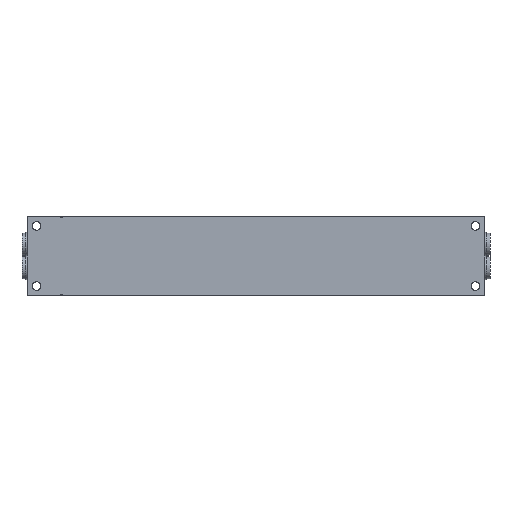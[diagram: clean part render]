
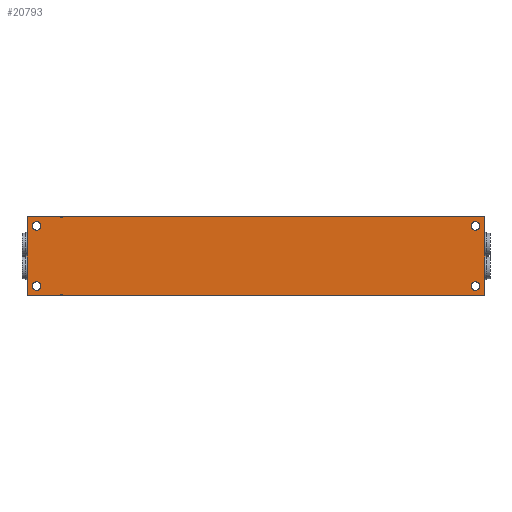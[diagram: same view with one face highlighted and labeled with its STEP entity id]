
A CAD part, front view. The second image highlights one B-rep face of the part: STEP entity #20793.
In plain terms, the highlighted planar face has unit normal (0, -1, 0).
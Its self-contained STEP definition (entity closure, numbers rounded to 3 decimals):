
#262 = DIRECTION ( 'NONE',  ( 0., 1., 0. ) ) ;
#442 = ORIENTED_EDGE ( 'NONE', *, *, #17556, .F. ) ;
#573 = AXIS2_PLACEMENT_3D ( 'NONE', #16283, #2697, #18690 ) ;
#609 = AXIS2_PLACEMENT_3D ( 'NONE', #25789, #11646, #28173 ) ;
#652 = AXIS2_PLACEMENT_3D ( 'NONE', #4871, #20978, #7110 ) ;
#739 = AXIS2_PLACEMENT_3D ( 'NONE', #13728, #262, #16086 ) ;
#1040 = CARTESIAN_POINT ( 'NONE',  ( 168., -19., -23. ) ) ;
#1466 = CARTESIAN_POINT ( 'NONE',  ( 168., -19., -26.25 ) ) ;
#1555 = DIRECTION ( 'NONE',  ( 1., 0., 0. ) ) ;
#1736 = CARTESIAN_POINT ( 'NONE',  ( -175., -19., -30. ) ) ;
#1973 = CIRCLE ( 'NONE', #739, 3.25 ) ;
#2056 = DIRECTION ( 'NONE',  ( 0., 1., 0. ) ) ;
#2383 = CIRCLE ( 'NONE', #19095, 3.25 ) ;
#2392 = CARTESIAN_POINT ( 'NONE',  ( 175., -19., -30. ) ) ;
#2570 = DIRECTION ( 'NONE',  ( 0., 1., 0. ) ) ;
#2697 = DIRECTION ( 'NONE',  ( 0., 1., 0. ) ) ;
#2932 = VERTEX_POINT ( 'NONE', #22086 ) ;
#3261 = ORIENTED_EDGE ( 'NONE', *, *, #7961, .T. ) ;
#3297 = DIRECTION ( 'NONE',  ( 0., 0., 1. ) ) ;
#3636 = ORIENTED_EDGE ( 'NONE', *, *, #19057, .T. ) ;
#3718 = VERTEX_POINT ( 'NONE', #28014 ) ;
#4501 = VERTEX_POINT ( 'NONE', #23052 ) ;
#4871 = CARTESIAN_POINT ( 'NONE',  ( -168., -19., 23. ) ) ;
#5147 = CIRCLE ( 'NONE', #573, 3.25 ) ;
#6401 = FACE_OUTER_BOUND ( 'NONE', #13119, .T. ) ;
#6680 = VECTOR ( 'NONE', #13126, 1000. ) ;
#6888 = CARTESIAN_POINT ( 'NONE',  ( 168., -19., -19.75 ) ) ;
#7098 = ORIENTED_EDGE ( 'NONE', *, *, #19016, .T. ) ;
#7110 = DIRECTION ( 'NONE',  ( 0., 0., 1. ) ) ;
#7112 = FACE_BOUND ( 'NONE', #11578, .T. ) ;
#7247 = LINE ( 'NONE', #2392, #19534 ) ;
#7434 = CARTESIAN_POINT ( 'NONE',  ( -175., -19., 30. ) ) ;
#7961 = EDGE_CURVE ( 'NONE', #11971, #16224, #15125, .T. ) ;
#8055 = CIRCLE ( 'NONE', #19875, 3.25 ) ;
#8836 = CARTESIAN_POINT ( 'NONE',  ( -175., -19., -30. ) ) ;
#10447 = EDGE_CURVE ( 'NONE', #20419, #4501, #8055, .T. ) ;
#10478 = VECTOR ( 'NONE', #28886, 1000. ) ;
#10797 = EDGE_CURVE ( 'NONE', #2932, #22924, #2383, .T. ) ;
#10852 = CARTESIAN_POINT ( 'NONE',  ( -175., -19., -30. ) ) ;
#11102 = DIRECTION ( 'NONE',  ( 0., 0., -1. ) ) ;
#11301 = VERTEX_POINT ( 'NONE', #7434 ) ;
#11578 = EDGE_LOOP ( 'NONE', ( #25353, #12060 ) ) ;
#11602 = EDGE_LOOP ( 'NONE', ( #28668, #3261 ) ) ;
#11646 = DIRECTION ( 'NONE',  ( 0., 1., 0. ) ) ;
#11651 = EDGE_LOOP ( 'NONE', ( #17901, #22745 ) ) ;
#11971 = VERTEX_POINT ( 'NONE', #1466 ) ;
#12060 = ORIENTED_EDGE ( 'NONE', *, *, #10797, .T. ) ;
#12423 = FACE_BOUND ( 'NONE', #13070, .T. ) ;
#12686 = VERTEX_POINT ( 'NONE', #19084 ) ;
#13008 = DIRECTION ( 'NONE',  ( 0., 1., 0. ) ) ;
#13070 = EDGE_LOOP ( 'NONE', ( #3636, #19769 ) ) ;
#13119 = EDGE_LOOP ( 'NONE', ( #7098, #442, #21994, #14909 ) ) ;
#13126 = DIRECTION ( 'NONE',  ( 0., 0., 1. ) ) ;
#13728 = CARTESIAN_POINT ( 'NONE',  ( -168., -19., -23. ) ) ;
#14666 = CARTESIAN_POINT ( 'NONE',  ( -175., -19., -30. ) ) ;
#14909 = ORIENTED_EDGE ( 'NONE', *, *, #24334, .T. ) ;
#15125 = CIRCLE ( 'NONE', #25570, 3.25 ) ;
#15361 = EDGE_CURVE ( 'NONE', #21222, #11301, #18930, .T. ) ;
#15379 = CARTESIAN_POINT ( 'NONE',  ( -168., -19., 19.75 ) ) ;
#15633 = CARTESIAN_POINT ( 'NONE',  ( 168., -19., 23. ) ) ;
#16086 = DIRECTION ( 'NONE',  ( 0., 0., 1. ) ) ;
#16172 = CARTESIAN_POINT ( 'NONE',  ( -168., -19., -23. ) ) ;
#16224 = VERTEX_POINT ( 'NONE', #6888 ) ;
#16283 = CARTESIAN_POINT ( 'NONE',  ( 168., -19., -23. ) ) ;
#16743 = LINE ( 'NONE', #29286, #28644 ) ;
#16912 = DIRECTION ( 'NONE',  ( 0., 1., 0. ) ) ;
#17556 = EDGE_CURVE ( 'NONE', #11301, #3718, #16743, .T. ) ;
#17901 = ORIENTED_EDGE ( 'NONE', *, *, #19018, .T. ) ;
#18018 = DIRECTION ( 'NONE',  ( 0., 0., 1. ) ) ;
#18300 = CIRCLE ( 'NONE', #19200, 3.25 ) ;
#18555 = DIRECTION ( 'NONE',  ( 0., 0., 1. ) ) ;
#18628 = FACE_BOUND ( 'NONE', #11602, .T. ) ;
#18690 = DIRECTION ( 'NONE',  ( 0., 0., 1. ) ) ;
#18930 = LINE ( 'NONE', #10852, #6680 ) ;
#19016 = EDGE_CURVE ( 'NONE', #12686, #3718, #7247, .T. ) ;
#19018 = EDGE_CURVE ( 'NONE', #4501, #20419, #1973, .T. ) ;
#19057 = EDGE_CURVE ( 'NONE', #26286, #25635, #22866, .T. ) ;
#19060 = EDGE_CURVE ( 'NONE', #22924, #2932, #29149, .T. ) ;
#19065 = EDGE_CURVE ( 'NONE', #16224, #11971, #5147, .T. ) ;
#19084 = CARTESIAN_POINT ( 'NONE',  ( 175., -19., -30. ) ) ;
#19095 = AXIS2_PLACEMENT_3D ( 'NONE', #15633, #2056, #18018 ) ;
#19200 = AXIS2_PLACEMENT_3D ( 'NONE', #27241, #13008, #29526 ) ;
#19397 = FACE_BOUND ( 'NONE', #11651, .T. ) ;
#19534 = VECTOR ( 'NONE', #23178, 1000. ) ;
#19769 = ORIENTED_EDGE ( 'NONE', *, *, #20345, .T. ) ;
#19875 = AXIS2_PLACEMENT_3D ( 'NONE', #16172, #2570, #18555 ) ;
#20345 = EDGE_CURVE ( 'NONE', #25635, #26286, #18300, .T. ) ;
#20419 = VERTEX_POINT ( 'NONE', #28152 ) ;
#20793 = ADVANCED_FACE ( 'NONE', ( #19397, #12423, #7112, #18628, #6401 ), #25116, .T. ) ;
#20978 = DIRECTION ( 'NONE',  ( 0., 1., 0. ) ) ;
#21222 = VERTEX_POINT ( 'NONE', #1736 ) ;
#21994 = ORIENTED_EDGE ( 'NONE', *, *, #15361, .F. ) ;
#22086 = CARTESIAN_POINT ( 'NONE',  ( 168., -19., 19.75 ) ) ;
#22745 = ORIENTED_EDGE ( 'NONE', *, *, #10447, .T. ) ;
#22866 = CIRCLE ( 'NONE', #652, 3.25 ) ;
#22924 = VERTEX_POINT ( 'NONE', #29591 ) ;
#23052 = CARTESIAN_POINT ( 'NONE',  ( -168., -19., -19.75 ) ) ;
#23178 = DIRECTION ( 'NONE',  ( 0., 0., 1. ) ) ;
#24334 = EDGE_CURVE ( 'NONE', #21222, #12686, #27798, .T. ) ;
#25116 = PLANE ( 'NONE',  #29681 ) ;
#25227 = DIRECTION ( 'NONE',  ( 0., -1., 0. ) ) ;
#25353 = ORIENTED_EDGE ( 'NONE', *, *, #19060, .T. ) ;
#25570 = AXIS2_PLACEMENT_3D ( 'NONE', #1040, #16912, #3297 ) ;
#25635 = VERTEX_POINT ( 'NONE', #15379 ) ;
#25789 = CARTESIAN_POINT ( 'NONE',  ( 168., -19., 23. ) ) ;
#26049 = CARTESIAN_POINT ( 'NONE',  ( -168., -19., 26.25 ) ) ;
#26286 = VERTEX_POINT ( 'NONE', #26049 ) ;
#27241 = CARTESIAN_POINT ( 'NONE',  ( -168., -19., 23. ) ) ;
#27798 = LINE ( 'NONE', #14666, #10478 ) ;
#28014 = CARTESIAN_POINT ( 'NONE',  ( 175., -19., 30. ) ) ;
#28152 = CARTESIAN_POINT ( 'NONE',  ( -168., -19., -26.25 ) ) ;
#28173 = DIRECTION ( 'NONE',  ( 0., 0., 1. ) ) ;
#28644 = VECTOR ( 'NONE', #1555, 1000. ) ;
#28668 = ORIENTED_EDGE ( 'NONE', *, *, #19065, .T. ) ;
#28886 = DIRECTION ( 'NONE',  ( 1., 0., 0. ) ) ;
#29149 = CIRCLE ( 'NONE', #609, 3.25 ) ;
#29286 = CARTESIAN_POINT ( 'NONE',  ( -175., -19., 30. ) ) ;
#29526 = DIRECTION ( 'NONE',  ( 0., 0., 1. ) ) ;
#29591 = CARTESIAN_POINT ( 'NONE',  ( 168., -19., 26.25 ) ) ;
#29681 = AXIS2_PLACEMENT_3D ( 'NONE', #8836, #25227, #11102 ) ;
